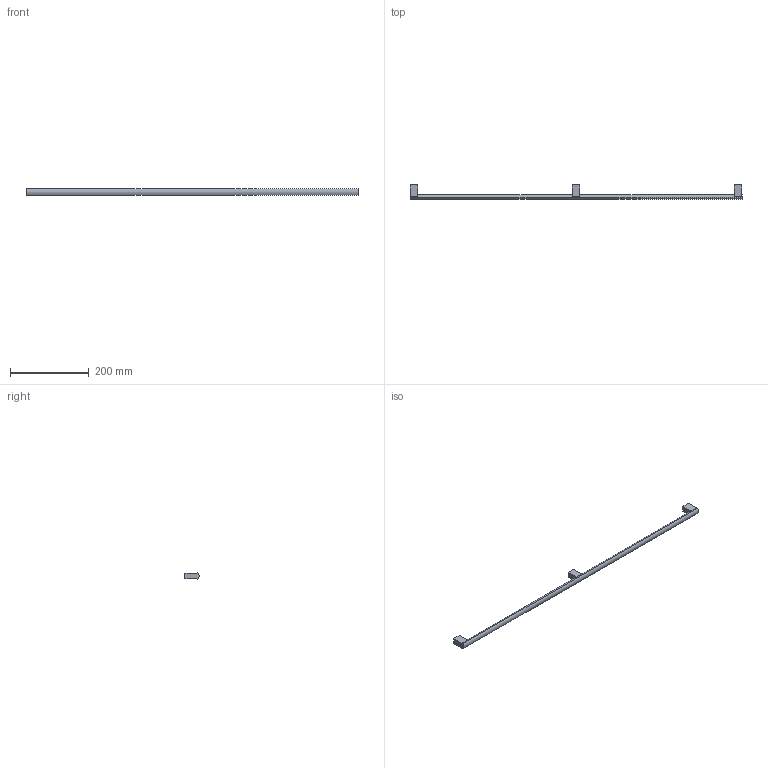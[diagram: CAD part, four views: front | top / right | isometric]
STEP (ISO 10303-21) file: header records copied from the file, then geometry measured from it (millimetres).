
FILE_DESCRIPTION( ( 'STEP AP214' ), '1' );
FILE_NAME( 'D:/Shahbaz D&D/Task/Check and correct handles with 3 drill sockets/Clivia/115212.stp', '2023-02-20T11:13:23', ( '' ), ( '' ), ' ', 'PARTsolutions', ' ' );
FILE_SCHEMA( ( 'AUTOMOTIVE_DESIGN { 1 0 10303 214 1 1 1 1 }' ) );
Length unit declared in the file: millimetre
Products named in the file (1): _115212
Bounding box: 844 x 35.96 x 16 mm (x, y, z)
Volume: 136041.5 mm3; surface area: 42334.4 mm2
Topology: 1 solids, 1 shells, 30 faces, 69 edges, 46 vertices
Faces by surface type: plane 25, cylinder 5
Full cylindrical faces by diameter (mm): 4 x3
Entity records: 1090 total; most frequent: DIRECTION 144, CARTESIAN_POINT 143, ORIENTED_EDGE 132, EDGE_CURVE 66, LINE 50, VECTOR 50, AXIS2_PLACEMENT_3D 47, VERTEX_POINT 46
